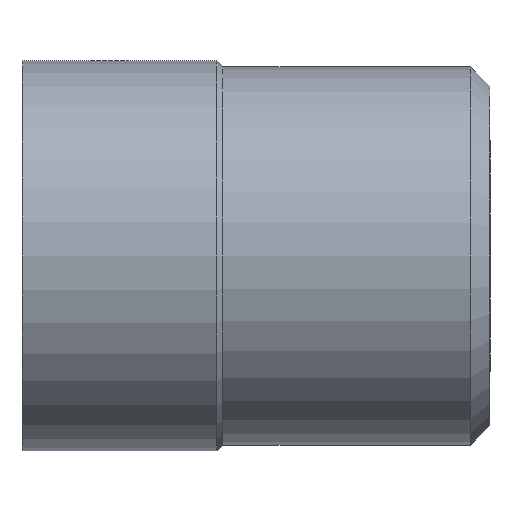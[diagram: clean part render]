
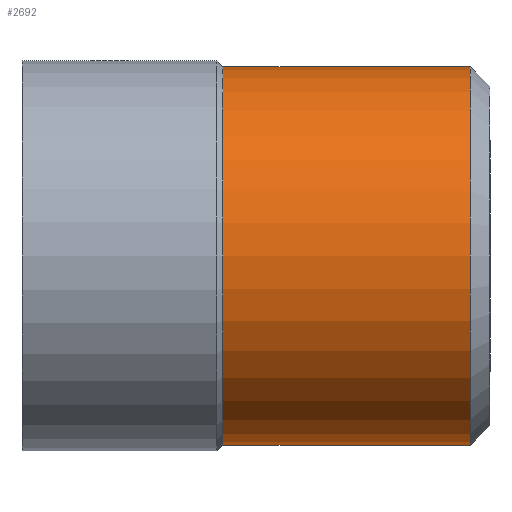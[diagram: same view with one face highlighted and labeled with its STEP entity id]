
A CAD part, left-side view. The second image highlights one B-rep face of the part: STEP entity #2692.
In plain terms, the highlighted cylindrical face has radius 4.85 mm (diameter 9.7 mm), a partial arc.
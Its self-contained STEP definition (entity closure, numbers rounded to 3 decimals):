
#67 = VECTOR ( 'NONE', #4919, 1000. ) ;
#344 = ORIENTED_EDGE ( 'NONE', *, *, #4443, .F. ) ;
#434 = VERTEX_POINT ( 'NONE', #1481 ) ;
#759 = CARTESIAN_POINT ( 'NONE',  ( 0., 3.29, 4.85 ) ) ;
#904 = CARTESIAN_POINT ( 'NONE',  ( 0., -5.15, 0. ) ) ;
#931 = CARTESIAN_POINT ( 'NONE',  ( 0., -11.5, 4.85 ) ) ;
#1409 = VERTEX_POINT ( 'NONE', #931 ) ;
#1481 = CARTESIAN_POINT ( 'NONE',  ( 0., -5.15, -4.85 ) ) ;
#1494 = AXIS2_PLACEMENT_3D ( 'NONE', #6034, #5436, #2445 ) ;
#1507 = DIRECTION ( 'NONE',  ( 0., 0., 1. ) ) ;
#1544 = VECTOR ( 'NONE', #7730, 1000. ) ;
#1724 = CYLINDRICAL_SURFACE ( 'NONE', #1494, 4.85 ) ;
#1791 = ORIENTED_EDGE ( 'NONE', *, *, #3299, .T. ) ;
#1831 = EDGE_LOOP ( 'NONE', ( #5776, #3534, #1791, #344 ) ) ;
#2073 = CIRCLE ( 'NONE', #3939, 4.85 ) ;
#2311 = DIRECTION ( 'NONE',  ( 0., 1., 0. ) ) ;
#2445 = DIRECTION ( 'NONE',  ( 0., 0., 1. ) ) ;
#2559 = EDGE_CURVE ( 'NONE', #6183, #1409, #6211, .T. ) ;
#2692 = ADVANCED_FACE ( 'NONE', ( #4891 ), #1724, .T. ) ;
#2717 = EDGE_CURVE ( 'NONE', #6183, #434, #4701, .T. ) ;
#2753 = CARTESIAN_POINT ( 'NONE',  ( 0., -11.5, -4.85 ) ) ;
#3299 = EDGE_CURVE ( 'NONE', #1409, #5241, #4611, .T. ) ;
#3534 = ORIENTED_EDGE ( 'NONE', *, *, #2559, .T. ) ;
#3939 = AXIS2_PLACEMENT_3D ( 'NONE', #904, #5058, #1507 ) ;
#4443 = EDGE_CURVE ( 'NONE', #434, #5241, #2073, .T. ) ;
#4611 = LINE ( 'NONE', #759, #67 ) ;
#4701 = LINE ( 'NONE', #5356, #1544 ) ;
#4891 = FACE_OUTER_BOUND ( 'NONE', #1831, .T. ) ;
#4919 = DIRECTION ( 'NONE',  ( 0., 1., 0. ) ) ;
#5058 = DIRECTION ( 'NONE',  ( 0., 1., 0. ) ) ;
#5241 = VERTEX_POINT ( 'NONE', #7129 ) ;
#5356 = CARTESIAN_POINT ( 'NONE',  ( 0., 3.29, -4.85 ) ) ;
#5436 = DIRECTION ( 'NONE',  ( 0., 1., 0. ) ) ;
#5630 = AXIS2_PLACEMENT_3D ( 'NONE', #5890, #2311, #6498 ) ;
#5776 = ORIENTED_EDGE ( 'NONE', *, *, #2717, .F. ) ;
#5890 = CARTESIAN_POINT ( 'NONE',  ( 0., -11.5, 0. ) ) ;
#6034 = CARTESIAN_POINT ( 'NONE',  ( 0., 3.29, 0. ) ) ;
#6183 = VERTEX_POINT ( 'NONE', #2753 ) ;
#6211 = CIRCLE ( 'NONE', #5630, 4.85 ) ;
#6498 = DIRECTION ( 'NONE',  ( 0., 0., 1. ) ) ;
#7129 = CARTESIAN_POINT ( 'NONE',  ( 0., -5.15, 4.85 ) ) ;
#7730 = DIRECTION ( 'NONE',  ( 0., 1., 0. ) ) ;
